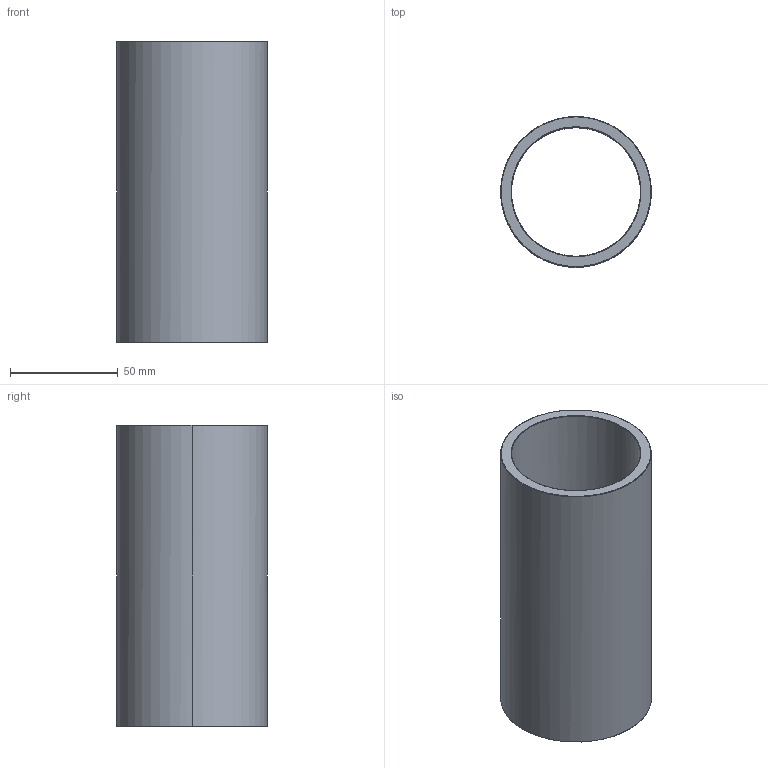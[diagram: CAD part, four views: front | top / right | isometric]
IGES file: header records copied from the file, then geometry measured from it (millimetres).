
Start section: Write IGES format                                    datakit 2008 (c)
Global section: file name: Unknown; native system: DATAKIT Converter; preprocessor: Unknown; author: Unknown; organization: Unknown; date: 950613.180003; units: millimetre
Bounding box: 70 x 70 x 140 mm (x, y, z)
Surface area: 59123.3 mm2 (no closed solid volume)
Topology: 0 solids, 0 shells, 14 faces, 56 edges, 56 vertices
Faces by surface type: revolution 12, bspline 2
